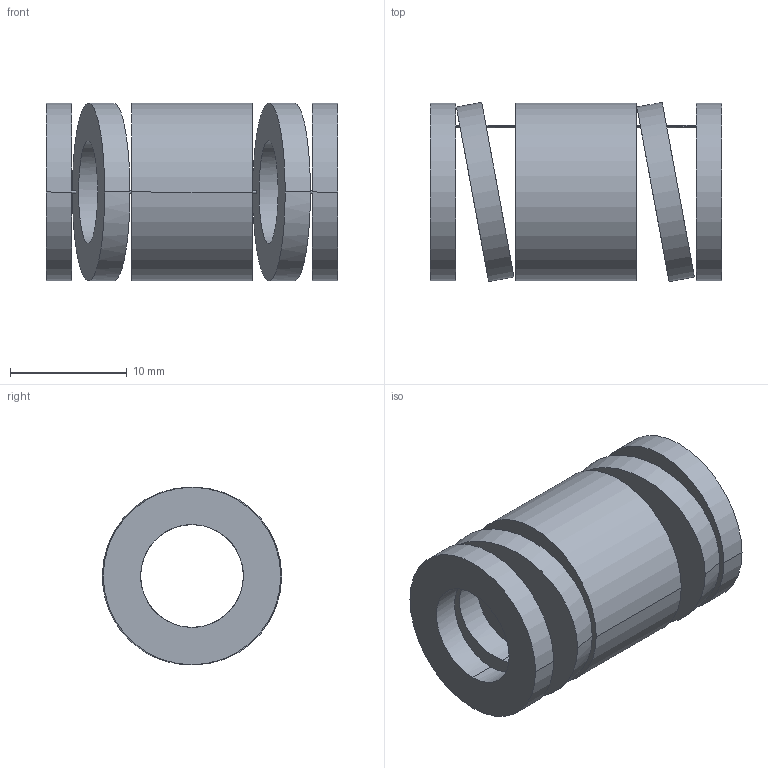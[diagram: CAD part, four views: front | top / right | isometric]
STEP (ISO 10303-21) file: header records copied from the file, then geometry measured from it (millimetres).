
FILE_DESCRIPTION(('CATIA V5 STEP Exchange'),'2;1');
FILE_NAME('C:\Users\Utente\Desktop\IO LAVORO\3D X SITO CF\X SITO\3D files 392B\392-B16-025.stp','2021-08-12T14:09:52+00:00',('none'),('none'),'CATIA Version 5 Release 20 GA (IN-10)','CATIA V5 STEP AP203','none');
FILE_SCHEMA(('CONFIG_CONTROL_DESIGN'));
Length unit declared in the file: millimetre
Products named in the file (1): 392-B16-025
Bounding box: 25 x 15.35 x 15.2 mm (x, y, z)
Volume: 2299.8 mm3; surface area: 2647.8 mm2
Topology: 1 solids, 1 shells, 38 faces, 92 edges, 64 vertices
Faces by surface type: cylinder 28, plane 10
Entity records: 1596 total; most frequent: CARTESIAN_POINT 709, ORIENTED_EDGE 184, DIRECTION 128, EDGE_CURVE 92, VERTEX_POINT 64, AXIS2_PLACEMENT_3D 63, EDGE_LOOP 56, B_SPLINE_CURVE_WITH_KNOTS 40
